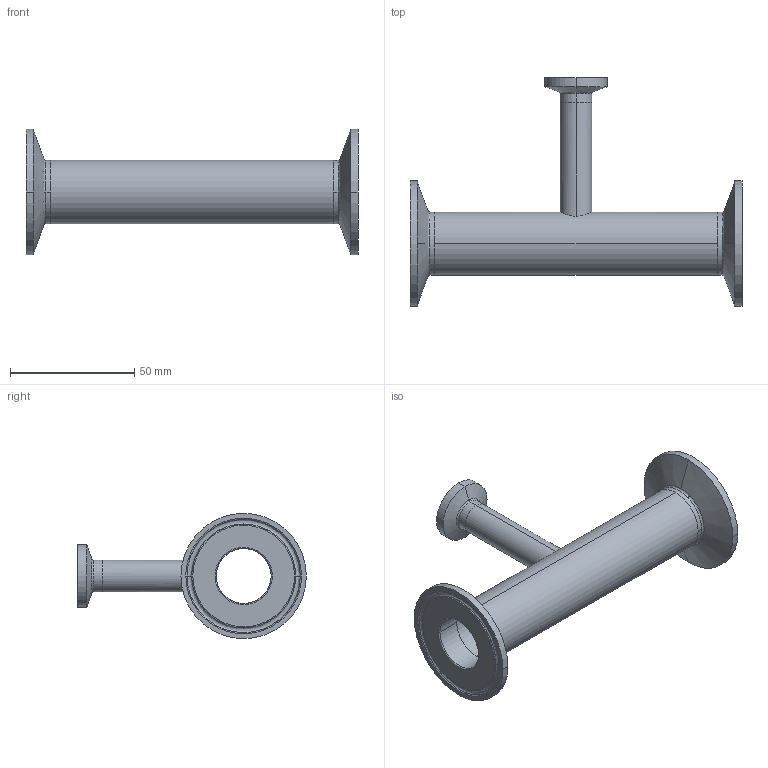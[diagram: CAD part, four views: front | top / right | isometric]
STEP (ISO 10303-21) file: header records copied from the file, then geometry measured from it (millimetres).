
FILE_DESCRIPTION (( 'STEP AP214' ), '1' );
FILE_NAME ('TEG7R6L1.0x.5-...STEP', '2016-05-24T05:24:50', ( 'eran' ), ( '' ), 'SwSTEP 2.0', 'SolidWorks 2016', '' );
FILE_SCHEMA (( 'AUTOMOTIVE_DESIGN' ));
Length unit declared in the file: millimetre
Products named in the file (1): TEG7R6L1.0x.5-..
Bounding box: 133.4 x 91.9 x 50.39 mm (x, y, z)
Volume: 34891.4 mm3; surface area: 31344 mm2
Topology: 4 solids, 4 shells, 84 faces, 198 edges, 126 vertices
Faces by surface type: cylinder 28, bspline 28, cone 16, plane 12
Entity records: 3785 total; most frequent: CARTESIAN_POINT 1801, DIRECTION 426, ORIENTED_EDGE 396, EDGE_CURVE 198, AXIS2_PLACEMENT_3D 191, CIRCLE 134, VERTEX_POINT 126, EDGE_LOOP 98
